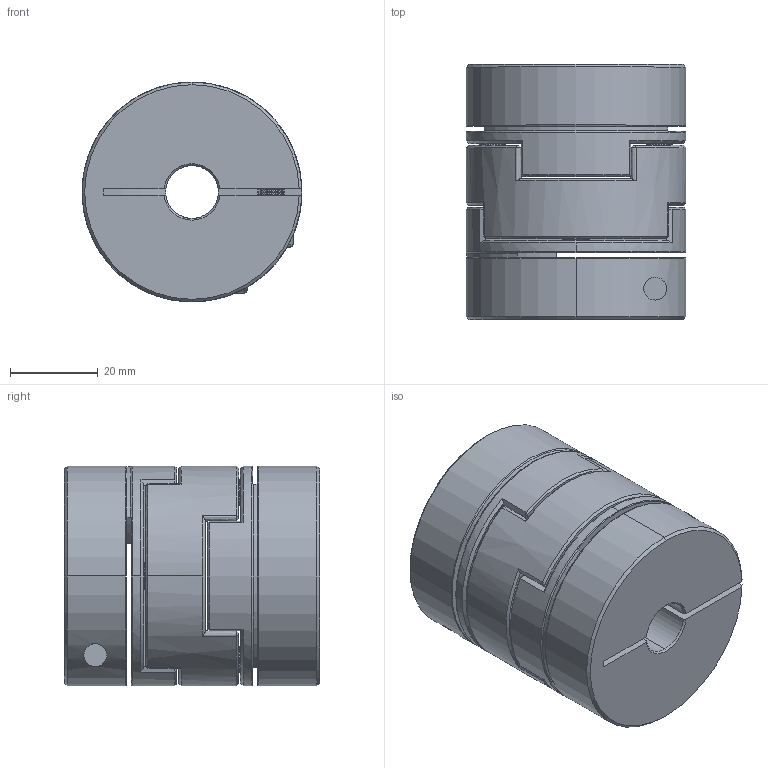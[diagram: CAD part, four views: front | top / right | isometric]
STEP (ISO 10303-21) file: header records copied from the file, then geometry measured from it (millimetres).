
FILE_DESCRIPTION (( 'STEP AP203' ), '1' );
FILE_NAME ('LZ-B-D50L58-12-22.STEP', '2021-10-29T07:29:18', ( '' ), ( '' ), 'SwSTEP 2.0', 'SolidWorks 2018', '' );
FILE_SCHEMA (( 'CONFIG_CONTROL_DESIGN' ));
Length unit declared in the file: millimetre
Products named in the file (1): LZ-B-D50L58-12-22
Bounding box: 50 x 58 x 50 mm (x, y, z)
Volume: 90964.4 mm3; surface area: 29895.7 mm2
Topology: 1 solids, 27 shells, 560 faces, 1364 edges, 810 vertices
Faces by surface type: cone 252, cylinder 160, plane 90, bspline 54, torus 4
Entity records: 17422 total; most frequent: CARTESIAN_POINT 4342, DIRECTION 2782, ORIENTED_EDGE 2720, EDGE_CURVE 1360, AXIS2_PLACEMENT_3D 1123, VERTEX_POINT 810, CIRCLE 616, EDGE_LOOP 594
